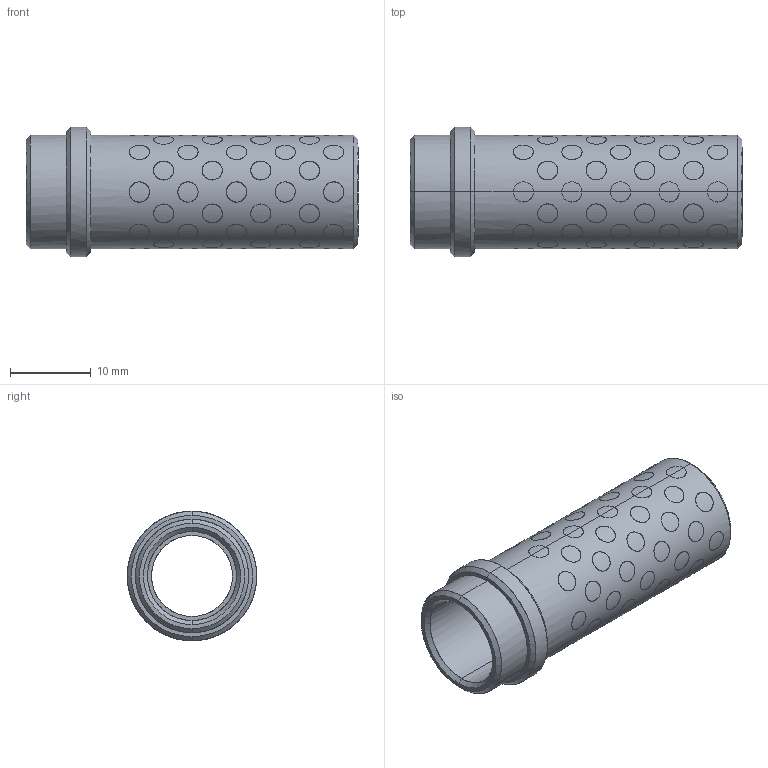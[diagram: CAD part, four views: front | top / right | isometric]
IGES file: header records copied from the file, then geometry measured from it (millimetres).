
Start section: START RECORD GO HERE.
Global section: file name: G31210036.igs; native system: DASSAULT SYSTEMES CATIA V5 R20 - www.3ds.com; preprocessor: CATIA Version 5 Release 20 ; author: r.borello; organization: CFTORINO; date: 20190624.122146; units: millimetre
Bounding box: 41 x 16 x 16 mm (x, y, z)
Surface area: 5586.8 mm2 (no closed solid volume)
Topology: 0 solids, 0 shells, 479 faces, 2076 edges, 2076 vertices
Faces by surface type: revolution 474, plane 5
